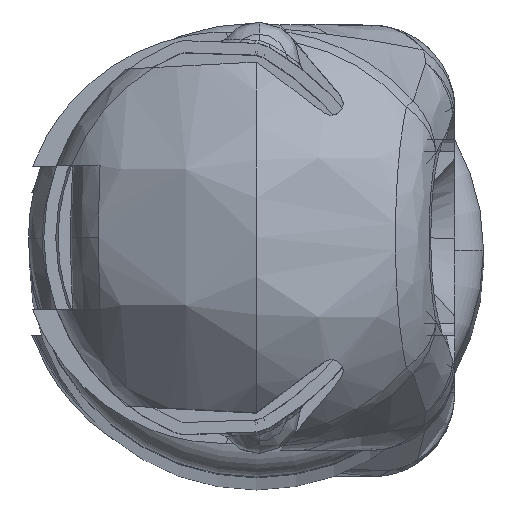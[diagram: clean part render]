
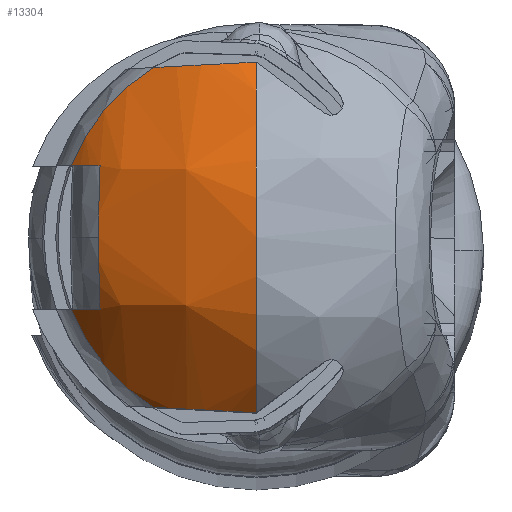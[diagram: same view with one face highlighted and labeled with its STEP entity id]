
A CAD part, top view. The second image highlights one B-rep face of the part: STEP entity #13304.
In plain terms, the highlighted free-form (B-spline) face has degree [3, 3] with [4, 4] control points.
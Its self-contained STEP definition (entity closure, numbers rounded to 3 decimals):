
#29 = EDGE_CURVE ( 'NONE', #3307, #12784, #9303, .T. ) ;
#117 = EDGE_CURVE ( 'NONE', #6741, #3374, #1370, .T. ) ;
#273 = CARTESIAN_POINT ( 'NONE',  ( -8.297, 7.335, 0. ) ) ;
#1370 = CIRCLE ( 'NONE', #1408, 8.157 ) ;
#1408 = AXIS2_PLACEMENT_3D ( 'NONE', #7783, #7782, #7781 ) ;
#1685 = FACE_OUTER_BOUND ( 'NONE', #18574, .T. ) ;
#2298 = CARTESIAN_POINT ( 'NONE',  ( -5.392, -7.402, 5.483 ) ) ;
#2299 = CARTESIAN_POINT ( 'NONE',  ( -7.204, -7.402, 4.197 ) ) ;
#2300 = CARTESIAN_POINT ( 'NONE',  ( -8.224, -7.402, 2.222 ) ) ;
#2301 = CARTESIAN_POINT ( 'NONE',  ( -8.224, -7.402, 0. ) ) ;
#2302 = CARTESIAN_POINT ( 'NONE',  ( -8.097, -3.157, 9.293 ) ) ;
#2303 = CARTESIAN_POINT ( 'NONE',  ( -11.169, -3.157, 7.113 ) ) ;
#2304 = CARTESIAN_POINT ( 'NONE',  ( -12.897, -3.157, 3.767 ) ) ;
#2305 = CARTESIAN_POINT ( 'NONE',  ( -12.897, -3.157, 0. ) ) ;
#2306 = CARTESIAN_POINT ( 'NONE',  ( -8.097, 3.157, 9.293 ) ) ;
#2307 = CARTESIAN_POINT ( 'NONE',  ( -11.169, 3.157, 7.113 ) ) ;
#2308 = CARTESIAN_POINT ( 'NONE',  ( -12.897, 3.157, 3.767 ) ) ;
#2309 = CARTESIAN_POINT ( 'NONE',  ( -12.897, 3.157, 0. ) ) ;
#2310 = CARTESIAN_POINT ( 'NONE',  ( -5.392, 7.402, 5.483 ) ) ;
#2311 = CARTESIAN_POINT ( 'NONE',  ( -7.204, 7.402, 4.197 ) ) ;
#2312 = CARTESIAN_POINT ( 'NONE',  ( -8.224, 7.402, 2.222 ) ) ;
#2313 = CARTESIAN_POINT ( 'NONE',  ( -8.224, 7.402, 0. ) ) ;
#3307 = VERTEX_POINT ( 'NONE', #7748 ) ;
#3374 = VERTEX_POINT ( 'NONE', #7695 ) ;
#4322 = B_SPLINE_CURVE_WITH_KNOTS ( 'NONE', 3,
 ( #15746, #15747, #15748, #15749, #15750, #15751 ),
 .UNSPECIFIED., .F., .F.,
 ( 4, 2, 4 ),
 ( 0., 0.002, 0.005 ),
 .UNSPECIFIED. ) ;
#4361 = B_SPLINE_CURVE_WITH_KNOTS ( 'NONE', 3,
 ( #8238, #8239, #8240, #8241, #8242, #8243 ),
 .UNSPECIFIED., .F., .F.,
 ( 4, 2, 4 ),
 ( 0., 0.002, 0.005 ),
 .UNSPECIFIED. ) ;
#5298 = CARTESIAN_POINT ( 'NONE',  ( -9.008, 0., 6.606 ) ) ;
#6741 = VERTEX_POINT ( 'NONE', #5298 ) ;
#7695 = CARTESIAN_POINT ( 'NONE',  ( -8.439, 3., 6.546 ) ) ;
#7748 = CARTESIAN_POINT ( 'NONE',  ( -8.297, -7.335, 0. ) ) ;
#7781 = DIRECTION ( 'NONE',  ( -0.995, 0., 0.105 ) ) ;
#7782 = DIRECTION ( 'NONE',  ( -0.105, 0., -0.995 ) ) ;
#7783 = CARTESIAN_POINT ( 'NONE',  ( -0.895, 0., 5.753 ) ) ;
#8238 = CARTESIAN_POINT ( 'NONE',  ( -7.066, -7.11, 4.298 ) ) ;
#8239 = CARTESIAN_POINT ( 'NONE',  ( -7.508, -7.143, 3.671 ) ) ;
#8240 = CARTESIAN_POINT ( 'NONE',  ( -7.834, -7.178, 2.99 ) ) ;
#8241 = CARTESIAN_POINT ( 'NONE',  ( -8.256, -7.256, 1.517 ) ) ;
#8242 = CARTESIAN_POINT ( 'NONE',  ( -8.34, -7.295, 0.765 ) ) ;
#8243 = CARTESIAN_POINT ( 'NONE',  ( -8.297, -7.335, 0. ) ) ;
#9025 = CARTESIAN_POINT ( 'NONE',  ( -7.066, 3., 7.747 ) ) ;
#9085 = CARTESIAN_POINT ( 'NONE',  ( -7.066, -3., 7.747 ) ) ;
#9103 = CARTESIAN_POINT ( 'NONE',  ( -8.439, -3., 6.546 ) ) ;
#9151 = CARTESIAN_POINT ( 'NONE',  ( -7.066, 7.11, 4.298 ) ) ;
#9191 = CARTESIAN_POINT ( 'NONE',  ( -7.066, -7.11, 4.298 ) ) ;
#9303 = CIRCLE ( 'NONE', #9304, 10. ) ;
#9304 = AXIS2_PLACEMENT_3D ( 'NONE', #16272, #16273, #16274 ) ;
#10976 = CIRCLE ( 'NONE', #10982, 9.539 ) ;
#10982 = AXIS2_PLACEMENT_3D ( 'NONE', #15404, #15405, #15406 ) ;
#10983 = CIRCLE ( 'NONE', #10990, 9.539 ) ;
#10990 = AXIS2_PLACEMENT_3D ( 'NONE', #15452, #15453, #15454 ) ;
#10991 = CIRCLE ( 'NONE', #10992, 8.308 ) ;
#10992 = AXIS2_PLACEMENT_3D ( 'NONE', #15475, #15476, #15477 ) ;
#10996 = CIRCLE ( 'NONE', #10998, 8.308 ) ;
#10998 = AXIS2_PLACEMENT_3D ( 'NONE', #15495, #15496, #15497 ) ;
#11034 = CIRCLE ( 'NONE', #11038, 8.157 ) ;
#11038 = AXIS2_PLACEMENT_3D ( 'NONE', #15649, #15650, #15651 ) ;
#12784 = VERTEX_POINT ( 'NONE', #273 ) ;
#13017 = ORIENTED_EDGE ( 'NONE', *, *, #29, .F. ) ;
#13019 = ORIENTED_EDGE ( 'NONE', *, *, #16483, .T. ) ;
#13020 = ORIENTED_EDGE ( 'NONE', *, *, #16598, .F. ) ;
#13021 = ORIENTED_EDGE ( 'NONE', *, *, #16534, .T. ) ;
#13022 = ORIENTED_EDGE ( 'NONE', *, *, #16470, .T. ) ;
#13023 = ORIENTED_EDGE ( 'NONE', *, *, #117, .T. ) ;
#13024 = ORIENTED_EDGE ( 'NONE', *, *, #16479, .F. ) ;
#13025 = ORIENTED_EDGE ( 'NONE', *, *, #16489, .F. ) ;
#13027 = ORIENTED_EDGE ( 'NONE', *, *, #16554, .F. ) ;
#13304 = ADVANCED_FACE ( 'NONE', ( #1685 ), #15904, .T. ) ;
#15404 = CARTESIAN_POINT ( 'NONE',  ( -1.5, -3., 0. ) ) ;
#15405 = DIRECTION ( 'NONE',  ( 0., -1., 0. ) ) ;
#15406 = DIRECTION ( 'NONE',  ( 1., 0., 0. ) ) ;
#15452 = CARTESIAN_POINT ( 'NONE',  ( -1.5, 3., 0. ) ) ;
#15453 = DIRECTION ( 'NONE',  ( 0., -1., 0. ) ) ;
#15454 = DIRECTION ( 'NONE',  ( 1., 0., 0. ) ) ;
#15475 = CARTESIAN_POINT ( 'NONE',  ( -7.066, 0., 0. ) ) ;
#15476 = DIRECTION ( 'NONE',  ( -1., 0., 0. ) ) ;
#15477 = DIRECTION ( 'NONE',  ( 0., 0., -1. ) ) ;
#15495 = CARTESIAN_POINT ( 'NONE',  ( -7.066, 0., 0. ) ) ;
#15496 = DIRECTION ( 'NONE',  ( 1., 0., 0. ) ) ;
#15497 = DIRECTION ( 'NONE',  ( 0., 0., -1. ) ) ;
#15649 = CARTESIAN_POINT ( 'NONE',  ( -0.895, 0., 5.753 ) ) ;
#15650 = DIRECTION ( 'NONE',  ( -0.105, 0., -0.995 ) ) ;
#15651 = DIRECTION ( 'NONE',  ( -0.995, 0., 0.105 ) ) ;
#15746 = CARTESIAN_POINT ( 'NONE',  ( -8.297, 7.335, 0. ) ) ;
#15747 = CARTESIAN_POINT ( 'NONE',  ( -8.34, 7.295, 0.765 ) ) ;
#15748 = CARTESIAN_POINT ( 'NONE',  ( -8.256, 7.256, 1.516 ) ) ;
#15749 = CARTESIAN_POINT ( 'NONE',  ( -7.835, 7.178, 2.989 ) ) ;
#15750 = CARTESIAN_POINT ( 'NONE',  ( -7.508, 7.143, 3.671 ) ) ;
#15751 = CARTESIAN_POINT ( 'NONE',  ( -7.066, 7.11, 4.298 ) ) ;
#15904 =( BOUNDED_SURFACE ( )  B_SPLINE_SURFACE ( 3, 3, ( 
 ( #2298, #2299, #2300, #2301 ),
 ( #2302, #2303, #2304, #2305 ),
 ( #2306, #2307, #2308, #2309 ),
 ( #2310, #2311, #2312, #2313 ) ),
 .UNSPECIFIED., .F., .F., .F. ) 
 B_SPLINE_SURFACE_WITH_KNOTS ( ( 4, 4 ),
 ( 4, 4 ),
 ( 0., 1. ),
 ( 0., 1. ),
 .UNSPECIFIED. ) 
 GEOMETRIC_REPRESENTATION_ITEM ( )  RATIONAL_B_SPLINE_SURFACE ( (
 ( 1., 0.926, 0.926, 1.),
 ( 0.782, 0.724, 0.724, 0.782),
 ( 0.782, 0.724, 0.724, 0.782),
 ( 1., 0.926, 0.926, 1.) ) ) 
 REPRESENTATION_ITEM ( '' )  SURFACE ( )  );
#16272 = CARTESIAN_POINT ( 'NONE',  ( -1.5, 0., 0. ) ) ;
#16273 = DIRECTION ( 'NONE',  ( 0., 0., -1. ) ) ;
#16274 = DIRECTION ( 'NONE',  ( 0., -1., 0. ) ) ;
#16470 = EDGE_CURVE ( 'NONE', #17521, #17539, #10976, .T. ) ;
#16479 = EDGE_CURVE ( 'NONE', #17457, #3374, #10983, .T. ) ;
#16483 = EDGE_CURVE ( 'NONE', #17625, #17521, #10991, .T. ) ;
#16489 = EDGE_CURVE ( 'NONE', #17587, #17457, #10996, .T. ) ;
#16534 = EDGE_CURVE ( 'NONE', #17539, #6741, #11034, .T. ) ;
#16554 = EDGE_CURVE ( 'NONE', #12784, #17587, #4322, .T. ) ;
#16598 = EDGE_CURVE ( 'NONE', #17625, #3307, #4361, .T. ) ;
#17457 = VERTEX_POINT ( 'NONE', #9025 ) ;
#17521 = VERTEX_POINT ( 'NONE', #9085 ) ;
#17539 = VERTEX_POINT ( 'NONE', #9103 ) ;
#17587 = VERTEX_POINT ( 'NONE', #9151 ) ;
#17625 = VERTEX_POINT ( 'NONE', #9191 ) ;
#18574 = EDGE_LOOP ( 'NONE', ( #13017, #13020, #13019, #13022, #13021, #13023, #13024, #13025, #13027 ) ) ;
